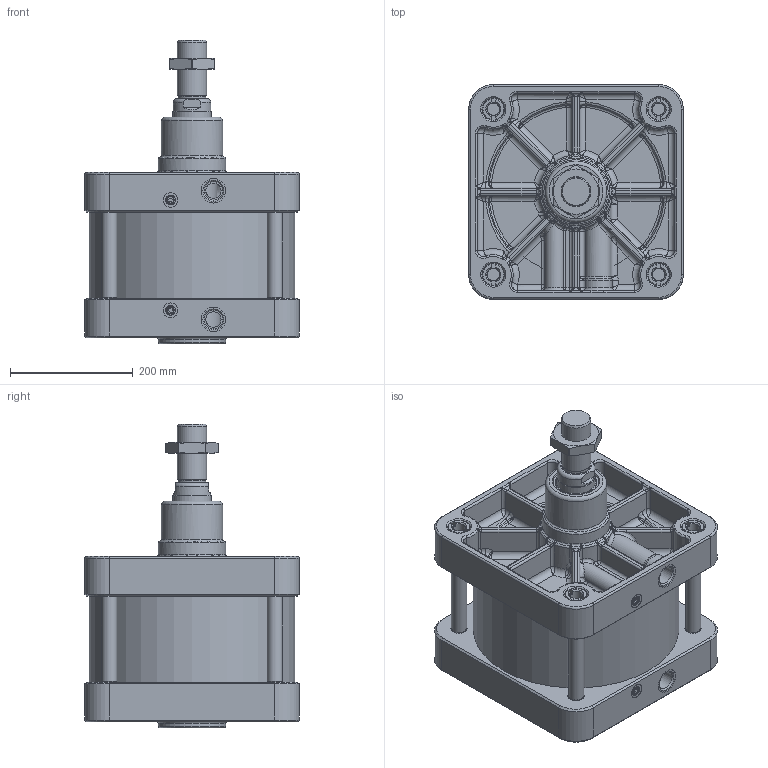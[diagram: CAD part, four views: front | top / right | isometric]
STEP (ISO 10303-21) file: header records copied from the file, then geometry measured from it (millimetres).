
FILE_DESCRIPTION(/* description */ (''),/* implementation_level */ '2;1');
FILE_NAME(/* name */ 'T:\Archivio Inventor\- 00 NUOVI STP PER SITO CON STELO CHE SI MUOVE\SERIE H - U\SERIE UDM\UDM320.---.GS.M\UDM320.050.GS.M.stp',/* time_stamp */ '2020-04-29T16:27:10+02:00',/* author */ ('carlo.corazza'),/* organization */ (''),/* preprocessor_version */ 'ST-DEVELOPER v16.5',/* originating_system */ 'Autodesk Inventor 2017',/* authorisation */ '');
FILE_SCHEMA (('AUTOMOTIVE_DESIGN { 1 0 10303 214 3 1 1 }'));
Length unit declared in the file: millimetre
Products named in the file (7): UDM320.050.GS.M; TP; STELO-050; TA; CORPO-050; TIRANTE-050; 29.2048.000.0
Assembly tree (9 placements, depth 2):
  UDM320.050.GS.M
    TP
    STELO-050
    TA
    TIRANTE-050  x4
    CORPO-050
    29.2048.000.0
Bounding box: 350 x 350 x 496 mm (x, y, z)
Volume: 11704189.2 mm3; surface area: 1596373.1 mm2
Topology: 9 solids, 16 shells, 1710 faces, 3937 edges, 2221 vertices
Faces by surface type: cylinder 439, bspline 432, plane 380, torus 252, cone 115, sphere 92
Full cylindrical faces by diameter (mm): 8 x2, 9 x1, 10 x1, 11 x2, 11.2 x2, 12 x2, 12.376 x1, 13.4 x4, 14 x2, 15.8 x4, 16 x6, 20.752 x8, 24 x10, 24.5 x8, 25 x6, 30.291 x2, 36 x9, 37 x8, 40 x2, 44.8 x1, 45.835 x1, 48 x1, 62 x1, 63 x1, 64 x1, 64.293 x1, 65.8 x1, 73 x1, 75 x3, 100 x1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
Entity records: 64917 total; most frequent: CARTESIAN_POINT 27888, DIRECTION 7314, ORIENTED_EDGE 7088, EDGE_CURVE 3544, AXIS2_PLACEMENT_3D 3113, VERTEX_POINT 2134, EDGE_LOOP 1966, FACE_OUTER_BOUND 1683
